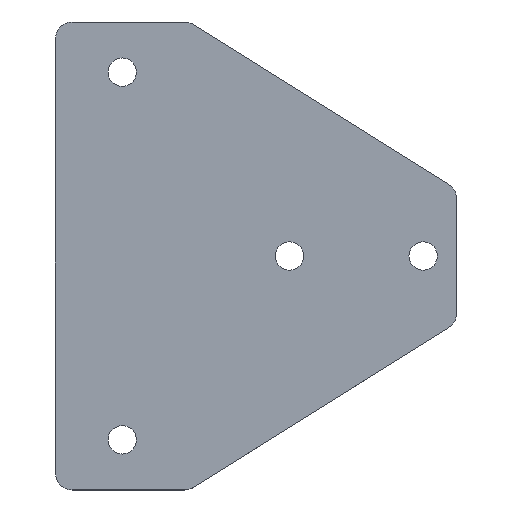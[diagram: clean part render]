
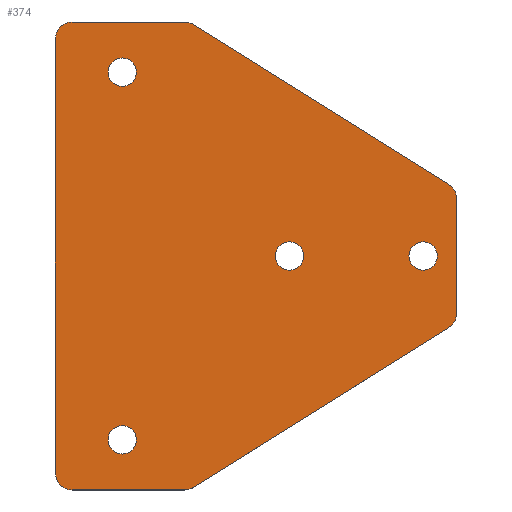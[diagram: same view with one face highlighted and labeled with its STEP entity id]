
A CAD part, top view. The second image highlights one B-rep face of the part: STEP entity #374.
In plain terms, the highlighted planar face has unit normal (0, 0, 1).
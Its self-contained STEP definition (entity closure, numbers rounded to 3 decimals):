
#19=FACE_BOUND('',#71,.T.);
#20=FACE_BOUND('',#72,.T.);
#21=FACE_BOUND('',#73,.T.);
#22=FACE_BOUND('',#74,.T.);
#30=PLANE('',#436);
#48=FACE_OUTER_BOUND('',#70,.T.);
#70=EDGE_LOOP('',(#327,#328,#329,#330,#331,#332,#333,#334,#335,#336,#337,
#338));
#71=EDGE_LOOP('',(#339,#340));
#72=EDGE_LOOP('',(#341,#342));
#73=EDGE_LOOP('',(#343,#344));
#74=EDGE_LOOP('',(#345,#346));
#80=LINE('',#574,#108);
#88=LINE('',#608,#116);
#91=LINE('',#616,#119);
#94=LINE('',#625,#122);
#101=LINE('',#654,#129);
#102=LINE('',#656,#130);
#108=VECTOR('',#460,10.);
#116=VECTOR('',#492,10.);
#119=VECTOR('',#501,10.);
#122=VECTOR('',#510,10.);
#129=VECTOR('',#545,10.);
#130=VECTOR('',#548,10.);
#131=CIRCLE('',#396,4.25);
#132=CIRCLE('',#397,4.25);
#134=CIRCLE('',#400,5.);
#144=CIRCLE('',#413,5.);
#145=CIRCLE('',#416,5.);
#146=CIRCLE('',#419,5.);
#147=CIRCLE('',#422,5.);
#148=CIRCLE('',#424,5.);
#149=CIRCLE('',#426,4.25);
#150=CIRCLE('',#427,4.25);
#151=CIRCLE('',#429,4.25);
#152=CIRCLE('',#430,4.25);
#153=CIRCLE('',#432,4.25);
#154=CIRCLE('',#433,4.25);
#155=VERTEX_POINT('',#553);
#156=VERTEX_POINT('',#554);
#158=VERTEX_POINT('',#561);
#159=VERTEX_POINT('',#562);
#163=VERTEX_POINT('',#572);
#176=VERTEX_POINT('',#602);
#177=VERTEX_POINT('',#606);
#178=VERTEX_POINT('',#610);
#179=VERTEX_POINT('',#614);
#180=VERTEX_POINT('',#618);
#181=VERTEX_POINT('',#619);
#182=VERTEX_POINT('',#624);
#183=VERTEX_POINT('',#628);
#184=VERTEX_POINT('',#632);
#185=VERTEX_POINT('',#636);
#186=VERTEX_POINT('',#637);
#187=VERTEX_POINT('',#642);
#188=VERTEX_POINT('',#643);
#189=VERTEX_POINT('',#648);
#190=VERTEX_POINT('',#649);
#191=EDGE_CURVE('',#155,#156,#131,.T.);
#192=EDGE_CURVE('',#156,#155,#132,.T.);
#195=EDGE_CURVE('',#158,#159,#134,.T.);
#201=EDGE_CURVE('',#163,#158,#80,.T.);
#215=EDGE_CURVE('',#176,#163,#144,.T.);
#218=EDGE_CURVE('',#177,#176,#88,.T.);
#219=EDGE_CURVE('',#178,#177,#145,.T.);
#222=EDGE_CURVE('',#179,#178,#91,.T.);
#223=EDGE_CURVE('',#180,#181,#146,.T.);
#226=EDGE_CURVE('',#181,#182,#94,.T.);
#228=EDGE_CURVE('',#182,#183,#147,.T.);
#230=EDGE_CURVE('',#184,#179,#148,.T.);
#232=EDGE_CURVE('',#185,#186,#149,.T.);
#233=EDGE_CURVE('',#186,#185,#150,.T.);
#235=EDGE_CURVE('',#187,#188,#151,.T.);
#236=EDGE_CURVE('',#188,#187,#152,.T.);
#238=EDGE_CURVE('',#189,#190,#153,.T.);
#239=EDGE_CURVE('',#190,#189,#154,.T.);
#241=EDGE_CURVE('',#183,#184,#101,.T.);
#242=EDGE_CURVE('',#159,#180,#102,.T.);
#327=ORIENTED_EDGE('',*,*,#195,.F.);
#328=ORIENTED_EDGE('',*,*,#201,.F.);
#329=ORIENTED_EDGE('',*,*,#215,.F.);
#330=ORIENTED_EDGE('',*,*,#218,.F.);
#331=ORIENTED_EDGE('',*,*,#219,.F.);
#332=ORIENTED_EDGE('',*,*,#222,.F.);
#333=ORIENTED_EDGE('',*,*,#230,.F.);
#334=ORIENTED_EDGE('',*,*,#241,.F.);
#335=ORIENTED_EDGE('',*,*,#228,.F.);
#336=ORIENTED_EDGE('',*,*,#226,.F.);
#337=ORIENTED_EDGE('',*,*,#223,.F.);
#338=ORIENTED_EDGE('',*,*,#242,.F.);
#339=ORIENTED_EDGE('',*,*,#191,.T.);
#340=ORIENTED_EDGE('',*,*,#192,.T.);
#341=ORIENTED_EDGE('',*,*,#232,.T.);
#342=ORIENTED_EDGE('',*,*,#233,.T.);
#343=ORIENTED_EDGE('',*,*,#235,.T.);
#344=ORIENTED_EDGE('',*,*,#236,.T.);
#345=ORIENTED_EDGE('',*,*,#238,.T.);
#346=ORIENTED_EDGE('',*,*,#239,.T.);
#374=ADVANCED_FACE('',(#48,#19,#20,#21,#22),#30,.T.);
#396=AXIS2_PLACEMENT_3D('',#555,#441,#442);
#397=AXIS2_PLACEMENT_3D('',#556,#443,#444);
#400=AXIS2_PLACEMENT_3D('',#563,#450,#451);
#413=AXIS2_PLACEMENT_3D('',#603,#486,#487);
#416=AXIS2_PLACEMENT_3D('',#611,#495,#496);
#419=AXIS2_PLACEMENT_3D('',#620,#504,#505);
#422=AXIS2_PLACEMENT_3D('',#629,#514,#515);
#424=AXIS2_PLACEMENT_3D('',#633,#519,#520);
#426=AXIS2_PLACEMENT_3D('',#638,#524,#525);
#427=AXIS2_PLACEMENT_3D('',#639,#526,#527);
#429=AXIS2_PLACEMENT_3D('',#644,#531,#532);
#430=AXIS2_PLACEMENT_3D('',#645,#533,#534);
#432=AXIS2_PLACEMENT_3D('',#650,#538,#539);
#433=AXIS2_PLACEMENT_3D('',#651,#540,#541);
#436=AXIS2_PLACEMENT_3D('',#657,#549,#550);
#441=DIRECTION('center_axis',(0.,0.,-1.));
#442=DIRECTION('ref_axis',(1.,0.,0.));
#443=DIRECTION('center_axis',(0.,0.,-1.));
#444=DIRECTION('ref_axis',(1.,0.,0.));
#450=DIRECTION('center_axis',(0.,0.,-1.));
#451=DIRECTION('ref_axis',(0.875,-0.485,0.));
#460=DIRECTION('',(0.,-1.,0.));
#486=DIRECTION('center_axis',(0.,0.,-1.));
#487=DIRECTION('ref_axis',(0.875,0.485,0.));
#492=DIRECTION('',(0.848,-0.53,0.));
#495=DIRECTION('center_axis',(0.,0.,-1.));
#496=DIRECTION('ref_axis',(0.276,0.961,0.));
#501=DIRECTION('',(1.,0.,0.));
#504=DIRECTION('center_axis',(0.,0.,-1.));
#505=DIRECTION('ref_axis',(0.276,-0.961,0.));
#510=DIRECTION('',(-1.,0.,0.));
#514=DIRECTION('center_axis',(0.,0.,-1.));
#515=DIRECTION('ref_axis',(-0.707,-0.707,0.));
#519=DIRECTION('center_axis',(0.,0.,-1.));
#520=DIRECTION('ref_axis',(-0.707,0.707,0.));
#524=DIRECTION('center_axis',(0.,0.,-1.));
#525=DIRECTION('ref_axis',(1.,0.,0.));
#526=DIRECTION('center_axis',(0.,0.,-1.));
#527=DIRECTION('ref_axis',(1.,0.,0.));
#531=DIRECTION('center_axis',(0.,0.,-1.));
#532=DIRECTION('ref_axis',(1.,0.,0.));
#533=DIRECTION('center_axis',(0.,0.,-1.));
#534=DIRECTION('ref_axis',(1.,0.,0.));
#538=DIRECTION('center_axis',(0.,0.,-1.));
#539=DIRECTION('ref_axis',(1.,0.,0.));
#540=DIRECTION('center_axis',(0.,0.,-1.));
#541=DIRECTION('ref_axis',(1.,0.,0.));
#545=DIRECTION('',(0.,1.,0.));
#548=DIRECTION('',(-0.848,-0.53,0.));
#549=DIRECTION('center_axis',(0.,0.,1.));
#550=DIRECTION('ref_axis',(1.,0.,0.));
#553=CARTESIAN_POINT('',(74.25,70.,3.));
#554=CARTESIAN_POINT('',(65.75,70.,3.));
#555=CARTESIAN_POINT('Origin',(70.,70.,3.));
#556=CARTESIAN_POINT('Origin',(70.,70.,3.));
#561=CARTESIAN_POINT('',(120.,52.771,3.));
#562=CARTESIAN_POINT('',(117.65,48.531,3.));
#563=CARTESIAN_POINT('Origin',(115.,52.771,3.));
#572=CARTESIAN_POINT('',(120.,87.229,3.));
#574=CARTESIAN_POINT('',(120.,50.,3.));
#602=CARTESIAN_POINT('',(117.65,91.469,3.));
#603=CARTESIAN_POINT('Origin',(115.,87.229,3.));
#606=CARTESIAN_POINT('',(41.216,139.24,3.));
#608=CARTESIAN_POINT('',(120.,90.,3.));
#610=CARTESIAN_POINT('',(38.566,140.,3.));
#611=CARTESIAN_POINT('Origin',(38.566,135.,3.));
#614=CARTESIAN_POINT('',(5.,140.,3.));
#616=CARTESIAN_POINT('',(40.,140.,3.));
#618=CARTESIAN_POINT('',(41.216,0.76,3.));
#619=CARTESIAN_POINT('',(38.566,0.,3.));
#620=CARTESIAN_POINT('Origin',(38.566,5.,3.));
#624=CARTESIAN_POINT('',(5.,0.,3.));
#625=CARTESIAN_POINT('',(0.,0.,3.));
#628=CARTESIAN_POINT('',(0.,5.,3.));
#629=CARTESIAN_POINT('Origin',(5.,5.,3.));
#632=CARTESIAN_POINT('',(0.,135.,3.));
#633=CARTESIAN_POINT('Origin',(5.,135.,3.));
#636=CARTESIAN_POINT('',(114.25,70.,3.));
#637=CARTESIAN_POINT('',(105.75,70.,3.));
#638=CARTESIAN_POINT('Origin',(110.,70.,3.));
#639=CARTESIAN_POINT('Origin',(110.,70.,3.));
#642=CARTESIAN_POINT('',(24.25,125.,3.));
#643=CARTESIAN_POINT('',(15.75,125.,3.));
#644=CARTESIAN_POINT('Origin',(20.,125.,3.));
#645=CARTESIAN_POINT('Origin',(20.,125.,3.));
#648=CARTESIAN_POINT('',(24.25,15.,3.));
#649=CARTESIAN_POINT('',(15.75,15.,3.));
#650=CARTESIAN_POINT('Origin',(20.,15.,3.));
#651=CARTESIAN_POINT('Origin',(20.,15.,3.));
#654=CARTESIAN_POINT('',(0.,140.,3.));
#656=CARTESIAN_POINT('',(40.,0.,3.));
#657=CARTESIAN_POINT('Origin',(47.906,70.,3.));
